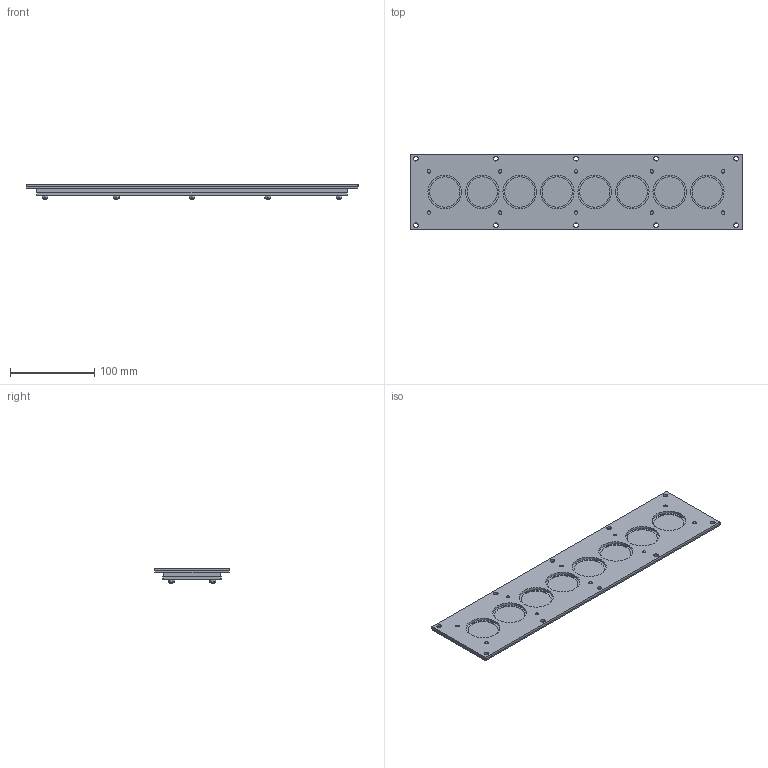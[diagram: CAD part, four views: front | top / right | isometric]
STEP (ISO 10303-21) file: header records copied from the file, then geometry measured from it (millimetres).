
FILE_DESCRIPTION(/* description */ ('Unknown'),/* implementation_level */ '2;1');
FILE_NAME(/* name */ 'KDP-S 90_8 Alu',/* time_stamp */ '2022-06-02T10:46:46+02:00',/* author */ ('Unknown'),/* organization */ ('Unknown'),/* preprocessor_version */ 'ST-DEVELOPER v16.7',/* originating_system */ 'Solid Edge',/* authorisation */ 'Unknown');
FILE_SCHEMA (('AUTOMOTIVE_DESIGN {1 0 10303 214 3 1 1}'));
Length unit declared in the file: millimetre
Products named in the file (8): KDP-S 90_8 Alu; KDP-V 90_8 NBR; KDP-A 90_8 EPDM; 6kt- Mutter M4x 0.8d V4; KDP-M 90_8 Alu FLP; Einpressgewindebolzen PEM FHLS-M4-18 ZI; KDP-M 90_8 Alu ADP
Assembly tree (25 placements, depth 3):
  KDP-S 90_8 Alu
    KDP-V 90_8 NBR
    KDP-A 90_8 EPDM
    6kt- Mutter M4x 0.8d V4  x10
    KDP-M 90_8 Alu FLP
      KDP-M 90_8 Alu FLP
      Einpressgewindebolzen PEM FHLS-M4-18 ZI  x10
    KDP-M 90_8 Alu ADP
Bounding box: 394 x 90 x 18 mm (x, y, z)
Volume: 309060.5 mm3; surface area: 225025.3 mm2
Topology: 24 solids, 24 shells, 322 faces, 778 edges, 536 vertices
Faces by surface type: plane 156, cylinder 136, torus 20, cone 10
Full cylindrical faces by diameter (mm): 3.242 x10, 4 x20, 5 x20, 5.5 x20, 6.5 x10, 14 x16, 36 x16, 40 x16
Entity records: 5604 total; most frequent: DIRECTION 966, CARTESIAN_POINT 953, ORIENTED_EDGE 626, EDGE_LOOP 486, FACE_BOUND 486, AXIS2_PLACEMENT_3D 452, EDGE_CURVE 313, VERTEX_POINT 283
